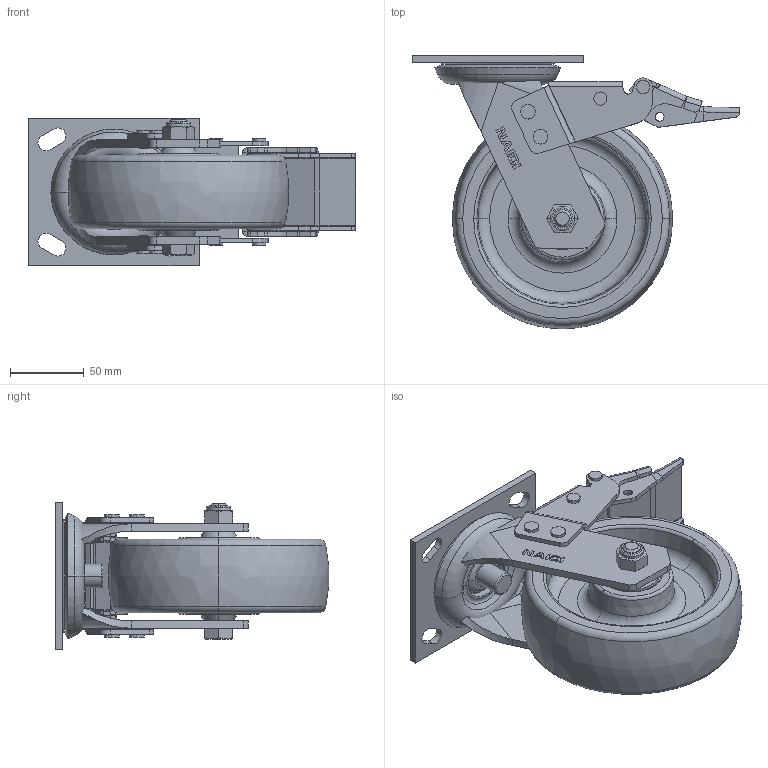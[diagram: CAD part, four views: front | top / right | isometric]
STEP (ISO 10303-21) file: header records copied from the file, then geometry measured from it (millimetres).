
FILE_DESCRIPTION((''),'2;1');
FILE_NAME('C74126L_ASM','2024-06-27T',('lin'),(''),'PRO/ENGINEER BY PARAMETRIC TECHNOLOGY CORPORATION, 2010280','PRO/ENGINEER BY PARAMETRIC TECHNOLOGY CORPORATION, 2010280','');
FILE_SCHEMA(('CONFIG_CONTROL_DESIGN'));
Length unit declared in the file: millimetre
Products named in the file (14): C7410-201; C7410-211; C7416-355; 7310-051; C746-906; C7410-008; C740-68; C746-08_ASM; 700-33; 700-34; C7416-525; 700-142; 700-141; C74126L_ASM
Assembly tree (14 placements, depth 3):
  C74126L_ASM
    C7410-201
    C7410-211
    C7416-355
    7310-051
    C746-08_ASM
      C746-906
      C7410-008
      C740-68  x2
    700-33
    700-34
    C7416-525
    700-142
    700-141
Bounding box: 222.32 x 185.75 x 100 mm (x, y, z)
Volume: 719015.2 mm3; surface area: 203850.4 mm2
Topology: 14 solids, 14 shells, 630 faces, 1448 edges, 888 vertices
Faces by surface type: plane 273, cylinder 189, torus 84, cone 46, bspline 38
Entity records: 19338 total; most frequent: CARTESIAN_POINT 5029, DIRECTION 3046, ORIENTED_EDGE 2816, EDGE_CURVE 1408, AXIS2_PLACEMENT_3D 1156, VERTEX_POINT 864, VECTOR 734, LINE 734
